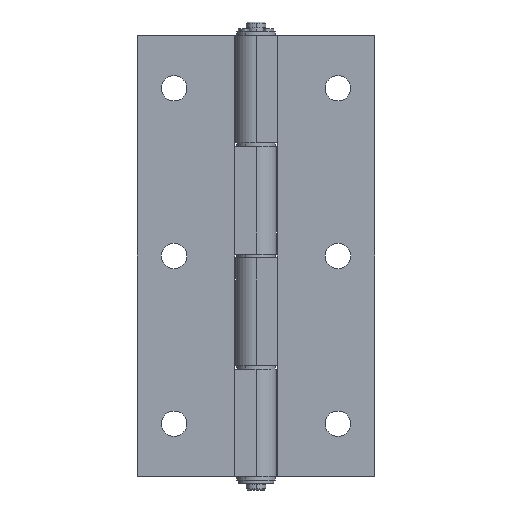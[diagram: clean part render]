
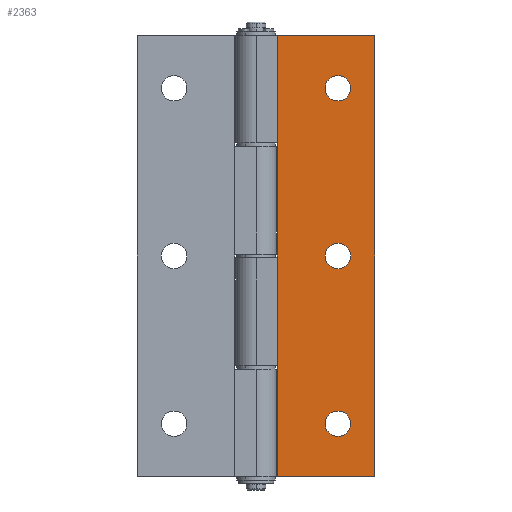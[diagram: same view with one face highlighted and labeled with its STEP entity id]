
A CAD part, front view. The second image highlights one B-rep face of the part: STEP entity #2363.
In plain terms, the highlighted planar face has unit normal (0, -1, 0).
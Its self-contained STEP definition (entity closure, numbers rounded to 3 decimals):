
#11 = CARTESIAN_POINT ( 'NONE',  ( 21., -5.75, -43. ) ) ;
#57 = DIRECTION ( 'NONE',  ( 0., 0., -1. ) ) ;
#65 = VERTEX_POINT ( 'NONE', #1606 ) ;
#66 = CARTESIAN_POINT ( 'NONE',  ( 5.5, -5.75, 56.5 ) ) ;
#128 = EDGE_CURVE ( 'NONE', #650, #290, #2811, .T. ) ;
#154 = EDGE_CURVE ( 'NONE', #65, #1230, #1424, .T. ) ;
#230 = CARTESIAN_POINT ( 'NONE',  ( 5.5, -5.75, 56.5 ) ) ;
#250 = CARTESIAN_POINT ( 'NONE',  ( 30.5, -5.75, 56.5 ) ) ;
#251 = AXIS2_PLACEMENT_3D ( 'NONE', #1487, #3230, #2451 ) ;
#267 = CARTESIAN_POINT ( 'NONE',  ( 21., -5.75, -46.25 ) ) ;
#276 = CIRCLE ( 'NONE', #251, 3.25 ) ;
#290 = VERTEX_POINT ( 'NONE', #2239 ) ;
#315 = CARTESIAN_POINT ( 'NONE',  ( 21., -5.75, 46.25 ) ) ;
#316 = EDGE_CURVE ( 'NONE', #467, #928, #3085, .T. ) ;
#336 = DIRECTION ( 'NONE',  ( 0., 0., 1. ) ) ;
#385 = CARTESIAN_POINT ( 'NONE',  ( 21., -5.75, 0. ) ) ;
#401 = CIRCLE ( 'NONE', #1910, 3.25 ) ;
#450 = DIRECTION ( 'NONE',  ( 0., 1., 0. ) ) ;
#451 = DIRECTION ( 'NONE',  ( 1., 0., 0. ) ) ;
#462 = EDGE_CURVE ( 'NONE', #3199, #2000, #276, .T. ) ;
#467 = VERTEX_POINT ( 'NONE', #1715 ) ;
#484 = ORIENTED_EDGE ( 'NONE', *, *, #2630, .T. ) ;
#486 = EDGE_LOOP ( 'NONE', ( #789, #1154 ) ) ;
#490 = LINE ( 'NONE', #1058, #3056 ) ;
#497 = EDGE_LOOP ( 'NONE', ( #1607, #2145 ) ) ;
#502 = PLANE ( 'NONE',  #1543 ) ;
#517 = CIRCLE ( 'NONE', #1495, 3.25 ) ;
#593 = CARTESIAN_POINT ( 'NONE',  ( 21., -5.75, 0. ) ) ;
#650 = VERTEX_POINT ( 'NONE', #250 ) ;
#677 = DIRECTION ( 'NONE',  ( -1., 0., 0. ) ) ;
#679 = DIRECTION ( 'NONE',  ( 0., 0., 1. ) ) ;
#789 = ORIENTED_EDGE ( 'NONE', *, *, #2579, .T. ) ;
#825 = VECTOR ( 'NONE', #3096, 1000. ) ;
#886 = DIRECTION ( 'NONE',  ( 0., 1., 0. ) ) ;
#928 = VERTEX_POINT ( 'NONE', #2598 ) ;
#1009 = DIRECTION ( 'NONE',  ( 0., 0., 1. ) ) ;
#1025 = CARTESIAN_POINT ( 'NONE',  ( 21., -5.75, 43. ) ) ;
#1058 = CARTESIAN_POINT ( 'NONE',  ( 5.5, -5.75, -56.5 ) ) ;
#1069 = DIRECTION ( 'NONE',  ( 1., 0., 0. ) ) ;
#1105 = FACE_BOUND ( 'NONE', #2626, .T. ) ;
#1118 = VERTEX_POINT ( 'NONE', #1221 ) ;
#1154 = ORIENTED_EDGE ( 'NONE', *, *, #2104, .T. ) ;
#1221 = CARTESIAN_POINT ( 'NONE',  ( 21., -5.75, 39.75 ) ) ;
#1230 = VERTEX_POINT ( 'NONE', #2078 ) ;
#1424 = CIRCLE ( 'NONE', #2627, 3.25 ) ;
#1487 = CARTESIAN_POINT ( 'NONE',  ( 21., -5.75, -43. ) ) ;
#1495 = AXIS2_PLACEMENT_3D ( 'NONE', #11, #2999, #679 ) ;
#1506 = DIRECTION ( 'NONE',  ( 0., 1., 0. ) ) ;
#1537 = ORIENTED_EDGE ( 'NONE', *, *, #154, .T. ) ;
#1543 = AXIS2_PLACEMENT_3D ( 'NONE', #230, #450, #677 ) ;
#1548 = EDGE_CURVE ( 'NONE', #2000, #3199, #517, .T. ) ;
#1559 = DIRECTION ( 'NONE',  ( 0., 0., 1. ) ) ;
#1568 = CIRCLE ( 'NONE', #2198, 3.25 ) ;
#1606 = CARTESIAN_POINT ( 'NONE',  ( 21., -5.75, 3.25 ) ) ;
#1607 = ORIENTED_EDGE ( 'NONE', *, *, #1548, .T. ) ;
#1697 = CARTESIAN_POINT ( 'NONE',  ( 21., -5.75, 43. ) ) ;
#1712 = ORIENTED_EDGE ( 'NONE', *, *, #316, .T. ) ;
#1715 = CARTESIAN_POINT ( 'NONE',  ( 5.5, -5.75, 56.5 ) ) ;
#1741 = FACE_BOUND ( 'NONE', #497, .T. ) ;
#1752 = EDGE_CURVE ( 'NONE', #467, #650, #2776, .T. ) ;
#1876 = CIRCLE ( 'NONE', #2550, 3.25 ) ;
#1910 = AXIS2_PLACEMENT_3D ( 'NONE', #1025, #886, #1009 ) ;
#1988 = VERTEX_POINT ( 'NONE', #315 ) ;
#2000 = VERTEX_POINT ( 'NONE', #2249 ) ;
#2033 = DIRECTION ( 'NONE',  ( 0., 1., 0. ) ) ;
#2069 = VECTOR ( 'NONE', #451, 1000. ) ;
#2078 = CARTESIAN_POINT ( 'NONE',  ( 21., -5.75, -3.25 ) ) ;
#2104 = EDGE_CURVE ( 'NONE', #1118, #1988, #401, .T. ) ;
#2122 = CARTESIAN_POINT ( 'NONE',  ( 5.5, -5.75, 56.5 ) ) ;
#2145 = ORIENTED_EDGE ( 'NONE', *, *, #462, .T. ) ;
#2185 = EDGE_CURVE ( 'NONE', #1230, #65, #1568, .T. ) ;
#2198 = AXIS2_PLACEMENT_3D ( 'NONE', #385, #1506, #1559 ) ;
#2239 = CARTESIAN_POINT ( 'NONE',  ( 30.5, -5.75, -56.5 ) ) ;
#2249 = CARTESIAN_POINT ( 'NONE',  ( 21., -5.75, -39.75 ) ) ;
#2335 = ORIENTED_EDGE ( 'NONE', *, *, #1752, .F. ) ;
#2363 = ADVANCED_FACE ( 'NONE', ( #1741, #1105, #3003, #3089 ), #502, .F. ) ;
#2367 = VECTOR ( 'NONE', #57, 1000. ) ;
#2451 = DIRECTION ( 'NONE',  ( 0., 0., 1. ) ) ;
#2497 = EDGE_LOOP ( 'NONE', ( #484, #3050, #2335, #1712 ) ) ;
#2550 = AXIS2_PLACEMENT_3D ( 'NONE', #1697, #2631, #2610 ) ;
#2579 = EDGE_CURVE ( 'NONE', #1988, #1118, #1876, .T. ) ;
#2598 = CARTESIAN_POINT ( 'NONE',  ( 5.5, -5.75, -56.5 ) ) ;
#2610 = DIRECTION ( 'NONE',  ( 0., 0., 1. ) ) ;
#2626 = EDGE_LOOP ( 'NONE', ( #1537, #2780 ) ) ;
#2627 = AXIS2_PLACEMENT_3D ( 'NONE', #593, #2033, #336 ) ;
#2630 = EDGE_CURVE ( 'NONE', #928, #290, #490, .T. ) ;
#2631 = DIRECTION ( 'NONE',  ( 0., 1., 0. ) ) ;
#2776 = LINE ( 'NONE', #2122, #2069 ) ;
#2780 = ORIENTED_EDGE ( 'NONE', *, *, #2185, .T. ) ;
#2811 = LINE ( 'NONE', #2844, #825 ) ;
#2844 = CARTESIAN_POINT ( 'NONE',  ( 30.5, -5.75, 56.5 ) ) ;
#2999 = DIRECTION ( 'NONE',  ( 0., 1., 0. ) ) ;
#3003 = FACE_BOUND ( 'NONE', #486, .T. ) ;
#3050 = ORIENTED_EDGE ( 'NONE', *, *, #128, .F. ) ;
#3056 = VECTOR ( 'NONE', #1069, 1000. ) ;
#3085 = LINE ( 'NONE', #66, #2367 ) ;
#3089 = FACE_OUTER_BOUND ( 'NONE', #2497, .T. ) ;
#3096 = DIRECTION ( 'NONE',  ( 0., 0., -1. ) ) ;
#3199 = VERTEX_POINT ( 'NONE', #267 ) ;
#3230 = DIRECTION ( 'NONE',  ( 0., 1., 0. ) ) ;
